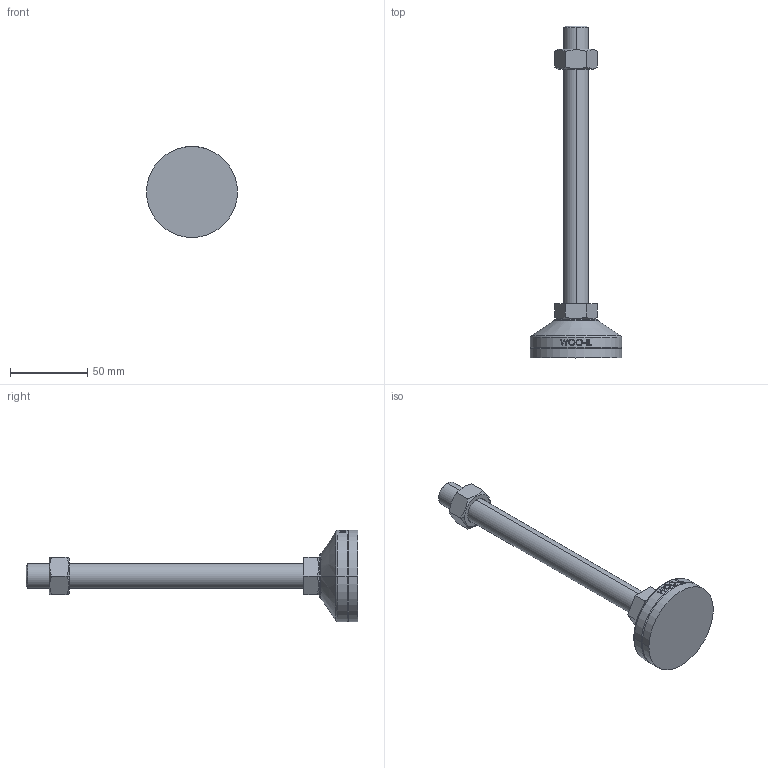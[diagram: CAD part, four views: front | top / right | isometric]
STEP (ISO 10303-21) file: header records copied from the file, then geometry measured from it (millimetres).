
FILE_DESCRIPTION (( 'STEP AP214' ), '1' );
FILE_NAME ('MFR59-M16-180.step', '2021-01-15T08:01:54', ( '' ), ( '' ), 'SwSTEP 2.0', 'SolidWorks 2019', '' );
FILE_SCHEMA (( 'AUTOMOTIVE_DESIGN' ));
Length unit declared in the file: millimetre
Products named in the file (2): MFR59-M16-180
Bounding box: 59 x 215 x 59 mm (x, y, z)
Volume: 99523.8 mm3; surface area: 26965.6 mm2
Topology: 4 solids, 4 shells, 103 faces, 235 edges, 150 vertices
Faces by surface type: plane 49, cylinder 18, bspline 16, cone 14, torus 6
Entity records: 4363 total; most frequent: CARTESIAN_POINT 2090, ORIENTED_EDGE 470, DIRECTION 417, EDGE_CURVE 235, AXIS2_PLACEMENT_3D 159, VERTEX_POINT 150, EDGE_LOOP 115, ADVANCED_FACE 103
